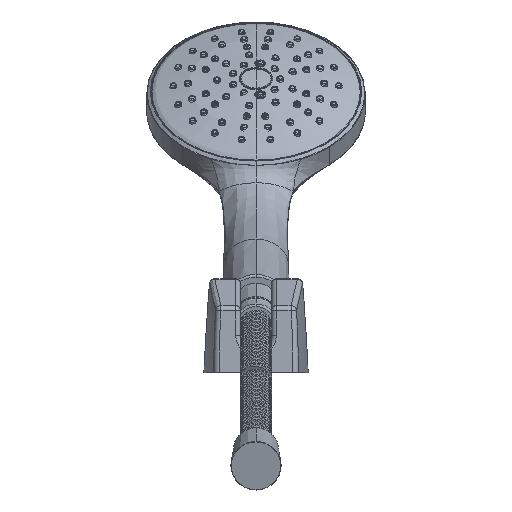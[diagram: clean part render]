
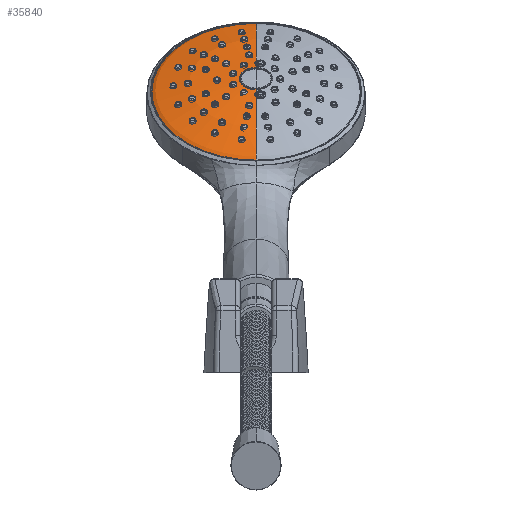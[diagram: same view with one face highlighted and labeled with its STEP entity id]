
A CAD part, front view. The second image highlights one B-rep face of the part: STEP entity #35840.
In plain terms, the highlighted face is a revolution surface.
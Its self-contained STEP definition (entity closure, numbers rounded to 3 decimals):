
#27997=CARTESIAN_POINT('',(0.,188.423,
128.375));
#27998=DIRECTION('',(0.,0.656,-0.755));
#27999=DIRECTION('',(0.,-0.755,
-0.656));
#28000=AXIS2_PLACEMENT_3D('',#27997,#27998,#27999);
#28002=CARTESIAN_POINT('',(0.,188.423,
128.375));
#28003=DIRECTION('',(0.,0.656,-0.755));
#28004=DIRECTION('',(-0.006,-0.755,-0.656));
#28005=AXIS2_PLACEMENT_3D('',#28002,#28003,#28004);
#28007=CARTESIAN_POINT('',(0.,192.828,
142.373));
#28008=CARTESIAN_POINT('',(-0.026,192.802,
142.355));
#28009=CARTESIAN_POINT('',(-0.077,192.75,
142.318));
#28010=CARTESIAN_POINT('',(-0.148,192.669,
142.259));
#28011=CARTESIAN_POINT('',(-0.192,192.614,
142.219));
#28012=CARTESIAN_POINT('',(-0.214,192.585,
142.199));
#28014=CARTESIAN_POINT('',(-0.214,190.466,
140.651));
#28015=CARTESIAN_POINT('',(-0.192,190.438,
140.63));
#28016=CARTESIAN_POINT('',(-0.148,190.383,
140.589));
#28017=CARTESIAN_POINT('',(-0.077,190.303,
140.53));
#28018=CARTESIAN_POINT('',(-0.026,190.252,
140.492));
#28019=CARTESIAN_POINT('',(0.,190.227,
140.473));
#28021=CARTESIAN_POINT('',(0.,183.135,
134.458));
#28022=DIRECTION('',(0.,-0.656,0.755));
#28023=DIRECTION('',(0.,0.755,0.656));
#28024=AXIS2_PLACEMENT_3D('',#28021,#28022,#28023);
#28026=CARTESIAN_POINT('',(0.,183.135,
134.458));
#28027=DIRECTION('',(0.,-0.656,0.755));
#28028=DIRECTION('',(-0.007,0.755,0.656));
#28029=AXIS2_PLACEMENT_3D('',#28026,#28027,#28028);
#28031=CARTESIAN_POINT('',(0.,177.314,
129.397));
#28032=CARTESIAN_POINT('',(0.,176.942,
129.028));
#28033=CARTESIAN_POINT('',(0.,176.568,
128.653));
#28034=CARTESIAN_POINT('',(0.,176.192,
128.272));
#28036=CARTESIAN_POINT('',(0.,176.192,
128.272));
#28037=CARTESIAN_POINT('',(-0.026,176.17,
128.25));
#28038=CARTESIAN_POINT('',(-0.077,176.125,
128.205));
#28039=CARTESIAN_POINT('',(-0.148,176.055,
128.134));
#28040=CARTESIAN_POINT('',(-0.192,176.007,
128.085));
#28041=CARTESIAN_POINT('',(-0.214,175.982,
128.06));
#28043=CARTESIAN_POINT('',(-0.214,175.982,
128.06));
#28044=CARTESIAN_POINT('',(-0.306,175.873,
127.949));
#28045=CARTESIAN_POINT('',(-0.461,175.648,
127.719));
#28046=CARTESIAN_POINT('',(-0.583,175.278,
127.34));
#28047=CARTESIAN_POINT('',(-0.591,174.896,
126.946));
#28048=CARTESIAN_POINT('',(-0.476,174.513,
126.55));
#28049=CARTESIAN_POINT('',(-0.317,174.272,
126.299));
#28050=CARTESIAN_POINT('',(-0.214,174.154,
126.177));
#28052=CARTESIAN_POINT('',(-0.214,174.154,
126.177));
#28053=CARTESIAN_POINT('',(-0.192,174.13,
126.152));
#28054=CARTESIAN_POINT('',(-0.148,174.083,
126.102));
#28055=CARTESIAN_POINT('',(-0.077,174.014,
126.03));
#28056=CARTESIAN_POINT('',(-0.026,173.97,
125.984));
#28057=CARTESIAN_POINT('',(0.,173.948,
125.961));
#28059=CARTESIAN_POINT('',(0.,173.948,
125.961));
#28060=CARTESIAN_POINT('',(0.,163.99,
115.524));
#28061=CARTESIAN_POINT('',(0.,153.58,
102.267));
#28062=CARTESIAN_POINT('',(0.,152.498,
97.145));
#28129=CARTESIAN_POINT('',(0.,188.957,
139.518));
#28130=CARTESIAN_POINT('',(0.,189.374,
139.835));
#28131=CARTESIAN_POINT('',(0.,189.798,
140.154));
#28132=CARTESIAN_POINT('',(0.,190.227,
140.473));
#28157=CARTESIAN_POINT('',(0.,192.828,
142.373));
#28158=CARTESIAN_POINT('',(0.,204.549,
150.782));
#28159=CARTESIAN_POINT('',(0.,219.127,
159.246));
#28160=CARTESIAN_POINT('',(0.,224.349,
159.604));
#34436=CARTESIAN_POINT('',(-0.214,190.466,
140.651));
#34437=CARTESIAN_POINT('',(-0.334,190.624,
140.768));
#34438=CARTESIAN_POINT('',(-0.519,190.967,
141.021));
#34439=CARTESIAN_POINT('',(-0.614,191.524,
141.428));
#34440=CARTESIAN_POINT('',(-0.519,192.082,
141.835));
#34441=CARTESIAN_POINT('',(-0.333,192.426,
142.084));
#34442=CARTESIAN_POINT('',(-0.214,192.585,
142.199));
#34609=CARTESIAN_POINT('',(-0.296,152.499,
97.146));
#34610=CARTESIAN_POINT('',(0.,224.349,
159.604));
#34611=VERTEX_POINT('',#34609);
#34612=VERTEX_POINT('',#34610);
#34613=CARTESIAN_POINT('',(0.,152.498,
97.145));
#34614=VERTEX_POINT('',#34613);
#34615=VERTEX_POINT('',#28157);
#34616=VERTEX_POINT('',#28012);
#34617=VERTEX_POINT('',#34436);
#34618=VERTEX_POINT('',#28019);
#34619=VERTEX_POINT('',#28129);
#34620=CARTESIAN_POINT('',(-0.056,188.956,
139.518));
#34621=CARTESIAN_POINT('',(0.,177.314,
129.397));
#34622=VERTEX_POINT('',#34620);
#34623=VERTEX_POINT('',#34621);
#34624=VERTEX_POINT('',#28034);
#34625=VERTEX_POINT('',#28041);
#34626=VERTEX_POINT('',#28050);
#34627=VERTEX_POINT('',#28057);
#35800=CARTESIAN_POINT('',(0.,152.44,
96.815));
#35801=CARTESIAN_POINT('',(0.,152.455,
96.921));
#35802=CARTESIAN_POINT('',(0.,153.456,
102.582));
#35803=CARTESIAN_POINT('',(0.,166.707,
118.928));
#35804=CARTESIAN_POINT('',(0.,177.604,
129.684));
#35806=CARTESIAN_POINT('',(0.,188.806,
127.935));
#35807=DIRECTION('',(0.,-0.656,0.755));
#35808=AXIS1_PLACEMENT('',#35806,#35807);
#35809=SURFACE_OF_REVOLUTION('',#35805,#35808);
#35811=ORIENTED_EDGE('',*,*,#35810,.T.);
#35813=ORIENTED_EDGE('',*,*,#35812,.T.);
#35815=ORIENTED_EDGE('',*,*,#35814,.F.);
#35817=ORIENTED_EDGE('',*,*,#35816,.T.);
#35819=ORIENTED_EDGE('',*,*,#35818,.F.);
#35821=ORIENTED_EDGE('',*,*,#35820,.T.);
#35823=ORIENTED_EDGE('',*,*,#35822,.F.);
#35825=ORIENTED_EDGE('',*,*,#35824,.T.);
#35827=ORIENTED_EDGE('',*,*,#35826,.T.);
#35829=ORIENTED_EDGE('',*,*,#35828,.T.);
#35831=ORIENTED_EDGE('',*,*,#35830,.T.);
#35833=ORIENTED_EDGE('',*,*,#35832,.T.);
#35835=ORIENTED_EDGE('',*,*,#35834,.T.);
#35837=ORIENTED_EDGE('',*,*,#35836,.T.);
#35838=EDGE_LOOP('',(#35811,#35813,#35815,#35817,#35819,#35821,#35823,#35825,
#35827,#35829,#35831,#35833,#35835,#35837));
#35839=FACE_OUTER_BOUND('',#35838,.F.);
#35840=ADVANCED_FACE('',(#35839),#35809,.T.);
#28001=CIRCLE('',#28000,47.601);
#28006=CIRCLE('',#28005,47.601);
#28013=B_SPLINE_CURVE_WITH_KNOTS('',3,(#28007,#28008,#28009,#28010,#28011,
#28012),.UNSPECIFIED.,.F.,.F.,(4,1,1,4),(0.,0.333,
0.667,1.),.UNSPECIFIED.);
#28020=B_SPLINE_CURVE_WITH_KNOTS('',3,(#28014,#28015,#28016,#28017,#28018,
#28019),.UNSPECIFIED.,.F.,.F.,(4,1,1,4),(0.,0.333,
0.667,1.),.UNSPECIFIED.);
#28025=CIRCLE('',#28024,7.713);
#28030=CIRCLE('',#28029,7.713);
#28035=B_SPLINE_CURVE_WITH_KNOTS('',3,(#28031,#28032,#28033,#28034),
.UNSPECIFIED.,.F.,.F.,(4,4),(0.,1.),.UNSPECIFIED.);
#28042=B_SPLINE_CURVE_WITH_KNOTS('',3,(#28036,#28037,#28038,#28039,#28040,
#28041),.UNSPECIFIED.,.F.,.F.,(4,1,1,4),(0.,0.333,
0.667,1.),.UNSPECIFIED.);
#28051=B_SPLINE_CURVE_WITH_KNOTS('',3,(#28043,#28044,#28045,#28046,#28047,
#28048,#28049,#28050),.UNSPECIFIED.,.F.,.F.,(4,1,1,1,1,4),(0.,0.2,0.4,
0.6,0.8,1.),.UNSPECIFIED.);
#28058=B_SPLINE_CURVE_WITH_KNOTS('',3,(#28052,#28053,#28054,#28055,#28056,
#28057),.UNSPECIFIED.,.F.,.F.,(4,1,1,4),(0.,0.333,
0.667,1.),.UNSPECIFIED.);
#28063=B_SPLINE_CURVE_WITH_KNOTS('',3,(#28059,#28060,#28061,#28062),
.UNSPECIFIED.,.F.,.F.,(4,4),(0.,1.),.UNSPECIFIED.);
#28133=B_SPLINE_CURVE_WITH_KNOTS('',3,(#28129,#28130,#28131,#28132),
.UNSPECIFIED.,.F.,.F.,(4,4),(0.,1.),.UNSPECIFIED.);
#28161=B_SPLINE_CURVE_WITH_KNOTS('',3,(#28157,#28158,#28159,#28160),
.UNSPECIFIED.,.F.,.F.,(4,4),(0.,1.),.UNSPECIFIED.);
#34443=B_SPLINE_CURVE_WITH_KNOTS('',3,(#34436,#34437,#34438,#34439,#34440,
#34441,#34442),.UNSPECIFIED.,.F.,.F.,(4,1,1,1,4),(0.,0.25,0.5,0.75,
1.),.UNSPECIFIED.);
#35805=B_SPLINE_CURVE_WITH_KNOTS('',3,(#35800,#35801,#35802,#35803,#35804),
.UNSPECIFIED.,.F.,.F.,(4,1,4),(0.,0.019,1.),.UNSPECIFIED.);
#35810=EDGE_CURVE('',#34614,#34611,#28001,.T.);
#35812=EDGE_CURVE('',#34611,#34612,#28006,.T.);
#35814=EDGE_CURVE('',#34615,#34612,#28161,.T.);
#35816=EDGE_CURVE('',#34615,#34616,#28013,.T.);
#35818=EDGE_CURVE('',#34617,#34616,#34443,.T.);
#35820=EDGE_CURVE('',#34617,#34618,#28020,.T.);
#35822=EDGE_CURVE('',#34619,#34618,#28133,.T.);
#35824=EDGE_CURVE('',#34619,#34622,#28025,.T.);
#35826=EDGE_CURVE('',#34622,#34623,#28030,.T.);
#35828=EDGE_CURVE('',#34623,#34624,#28035,.T.);
#35830=EDGE_CURVE('',#34624,#34625,#28042,.T.);
#35832=EDGE_CURVE('',#34625,#34626,#28051,.T.);
#35834=EDGE_CURVE('',#34626,#34627,#28058,.T.);
#35836=EDGE_CURVE('',#34627,#34614,#28063,.T.);
